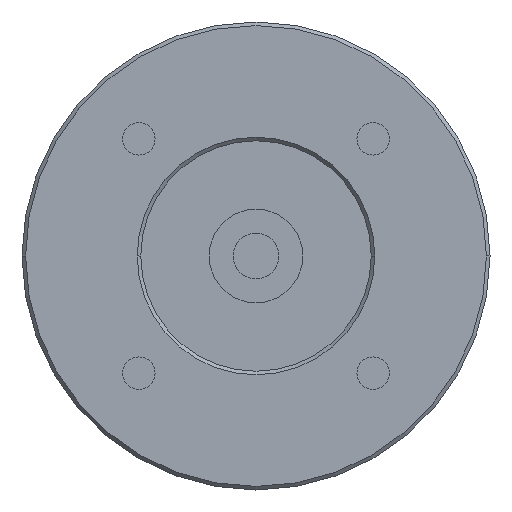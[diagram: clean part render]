
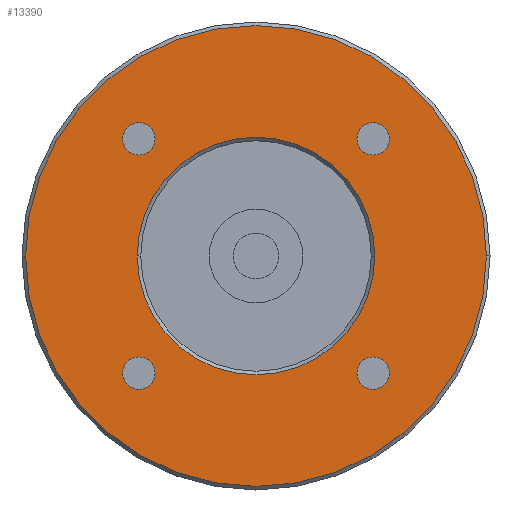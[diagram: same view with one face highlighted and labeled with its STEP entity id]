
A CAD part, left-side view. The second image highlights one B-rep face of the part: STEP entity #13390.
In plain terms, the highlighted planar face has unit normal (-1, 0, 0) as drawn and (0, 0, -1) by its records, which use the part's own axes.
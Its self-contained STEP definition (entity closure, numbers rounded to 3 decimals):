
#12060=CARTESIAN_POINT('',(-16.5,0.,-35.));
#12070=VERTEX_POINT('',#12060);
#12100=CARTESIAN_POINT('',(0.,0.,
-35.));
#12110=DIRECTION('',(0.,0.,-1.));
#12120=DIRECTION('',(0.,-1.,0.));
#12130=AXIS2_PLACEMENT_3D('',#12100,#12110,#12120);
#12140=CIRCLE('',#12130,16.5);
#12150=CARTESIAN_POINT('',(0.,-16.5,-35.));
#12160=VERTEX_POINT('',#12150);
#12170=EDGE_CURVE('',#12160,#12070,#12140,.T.);
#12190=CARTESIAN_POINT('',(16.5,0.,-35.));
#12200=VERTEX_POINT('',#12190);
#12210=EDGE_CURVE('',#12200,#12160,#12140,.T.);
#12330=CARTESIAN_POINT('',(0.,0.,
-35.));
#12340=DIRECTION('',(0.,0.,-1.));
#12350=DIRECTION('',(0.,-1.,0.));
#12360=AXIS2_PLACEMENT_3D('',#12330,#12340,#12350);
#12370=PLANE('',#12360);
#12380=CARTESIAN_POINT('',(-16.263,-16.263,-35.));
#12390=DIRECTION('',(0.,0.,-1.));
#12400=DIRECTION('',(1.,0.,0.));
#12410=AXIS2_PLACEMENT_3D('',#12380,#12390,#12400);
#12420=CIRCLE('',#12410,2.25);
#12430=CARTESIAN_POINT('',(-14.013,-16.263,-35.));
#12440=VERTEX_POINT('',#12430);
#12450=CARTESIAN_POINT('',(-16.263,-18.513,-35.));
#12460=VERTEX_POINT('',#12450);
#12470=EDGE_CURVE('',#12440,#12460,#12420,.T.);
#12480=ORIENTED_EDGE('',*,*,#12470,.F.);
#12490=CARTESIAN_POINT('',(-16.263,-14.013,-35.));
#12500=VERTEX_POINT('',#12490);
#12510=EDGE_CURVE('',#12460,#12500,#12420,.T.);
#12520=ORIENTED_EDGE('',*,*,#12510,.F.);
#12530=EDGE_CURVE('',#12500,#12440,#12420,.T.);
#12540=ORIENTED_EDGE('',*,*,#12530,.F.);
#12550=EDGE_LOOP('',(#12540,#12520,#12480));
#12560=FACE_BOUND('',#12550,.T.);
#12570=CARTESIAN_POINT('',(-16.263,16.263,-35.));
#12580=DIRECTION('',(0.,0.,-1.));
#12590=DIRECTION('',(1.,0.,0.));
#12600=AXIS2_PLACEMENT_3D('',#12570,#12580,#12590);
#12610=CIRCLE('',#12600,2.25);
#12620=CARTESIAN_POINT('',(-14.013,16.263,-35.));
#12630=VERTEX_POINT('',#12620);
#12640=CARTESIAN_POINT('',(-16.263,14.013,-35.));
#12650=VERTEX_POINT('',#12640);
#12660=EDGE_CURVE('',#12630,#12650,#12610,.T.);
#12670=ORIENTED_EDGE('',*,*,#12660,.F.);
#12680=CARTESIAN_POINT('',(-16.263,18.513,-35.));
#12690=VERTEX_POINT('',#12680);
#12700=EDGE_CURVE('',#12650,#12690,#12610,.T.);
#12710=ORIENTED_EDGE('',*,*,#12700,.F.);
#12720=EDGE_CURVE('',#12690,#12630,#12610,.T.);
#12730=ORIENTED_EDGE('',*,*,#12720,.F.);
#12740=EDGE_LOOP('',(#12730,#12710,#12670));
#12750=FACE_BOUND('',#12740,.T.);
#12760=CARTESIAN_POINT('',(16.263,16.263,-35.));
#12770=DIRECTION('',(0.,0.,-1.));
#12780=DIRECTION('',(1.,0.,0.));
#12790=AXIS2_PLACEMENT_3D('',#12760,#12770,#12780);
#12800=CIRCLE('',#12790,2.25);
#12810=CARTESIAN_POINT('',(18.513,16.263,-35.));
#12820=VERTEX_POINT('',#12810);
#12830=CARTESIAN_POINT('',(16.263,14.013,-35.));
#12840=VERTEX_POINT('',#12830);
#12850=EDGE_CURVE('',#12820,#12840,#12800,.T.);
#12860=ORIENTED_EDGE('',*,*,#12850,.F.);
#12870=CARTESIAN_POINT('',(16.263,18.513,-35.));
#12880=VERTEX_POINT('',#12870);
#12890=EDGE_CURVE('',#12840,#12880,#12800,.T.);
#12900=ORIENTED_EDGE('',*,*,#12890,.F.);
#12910=EDGE_CURVE('',#12880,#12820,#12800,.T.);
#12920=ORIENTED_EDGE('',*,*,#12910,.F.);
#12930=EDGE_LOOP('',(#12920,#12900,#12860));
#12940=FACE_BOUND('',#12930,.T.);
#12950=CARTESIAN_POINT('',(16.263,-16.263,-35.));
#12960=DIRECTION('',(0.,0.,-1.));
#12970=DIRECTION('',(1.,0.,0.));
#12980=AXIS2_PLACEMENT_3D('',#12950,#12960,#12970);
#12990=CIRCLE('',#12980,2.25);
#13000=CARTESIAN_POINT('',(18.513,-16.263,-35.));
#13010=VERTEX_POINT('',#13000);
#13020=CARTESIAN_POINT('',(16.263,-18.513,-35.));
#13030=VERTEX_POINT('',#13020);
#13040=EDGE_CURVE('',#13010,#13030,#12990,.T.);
#13050=ORIENTED_EDGE('',*,*,#13040,.F.);
#13060=CARTESIAN_POINT('',(16.263,-14.013,-35.));
#13070=VERTEX_POINT('',#13060);
#13080=EDGE_CURVE('',#13030,#13070,#12990,.T.);
#13090=ORIENTED_EDGE('',*,*,#13080,.F.);
#13100=EDGE_CURVE('',#13070,#13010,#12990,.T.);
#13110=ORIENTED_EDGE('',*,*,#13100,.F.);
#13120=EDGE_LOOP('',(#13110,#13090,#13050));
#13130=FACE_BOUND('',#13120,.T.);
#13140=CARTESIAN_POINT('',(0.,0.,
-35.));
#13150=DIRECTION('',(0.,0.,-1.));
#13160=DIRECTION('',(0.,-1.,0.));
#13170=AXIS2_PLACEMENT_3D('',#13140,#13150,#13160);
#13180=CIRCLE('',#13170,32.);
#13190=CARTESIAN_POINT('',(-32.,0.,-35.));
#13200=VERTEX_POINT('',#13190);
#13210=CARTESIAN_POINT('',(32.,0.,-35.));
#13220=VERTEX_POINT('',#13210);
#13230=EDGE_CURVE('',#13200,#13220,#13180,.T.);
#13240=ORIENTED_EDGE('',*,*,#13230,.T.);
#13250=CARTESIAN_POINT('',(0.,-32.,-35.));
#13260=VERTEX_POINT('',#13250);
#13270=EDGE_CURVE('',#13260,#13200,#13180,.T.);
#13280=ORIENTED_EDGE('',*,*,#13270,.T.);
#13290=EDGE_CURVE('',#13220,#13260,#13180,.T.);
#13300=ORIENTED_EDGE('',*,*,#13290,.T.);
#13310=EDGE_LOOP('',(#13300,#13280,#13240));
#13320=FACE_OUTER_BOUND('',#13310,.T.);
#13330=ORIENTED_EDGE('',*,*,#12170,.F.);
#13340=EDGE_CURVE('',#12070,#12200,#12140,.T.);
#13350=ORIENTED_EDGE('',*,*,#13340,.F.);
#13360=ORIENTED_EDGE('',*,*,#12210,.F.);
#13370=EDGE_LOOP('',(#13360,#13350,#13330));
#13380=FACE_BOUND('',#13370,.T.);
#13390=ADVANCED_FACE('',(#12560,#12750,#12940,#13130,#13320,#13380),
#12370,.T.);
